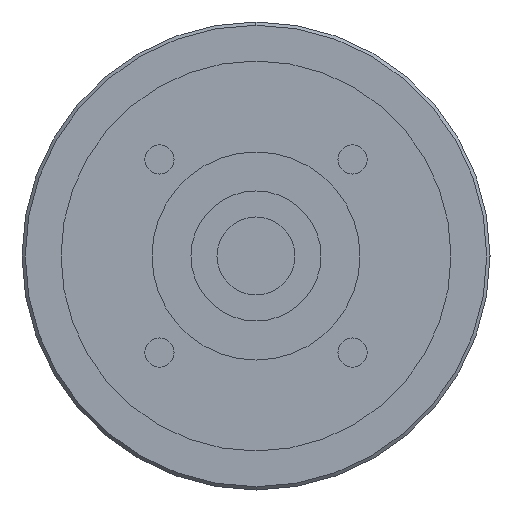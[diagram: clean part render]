
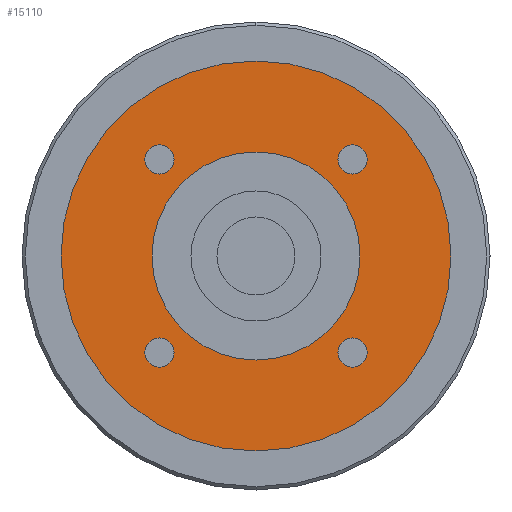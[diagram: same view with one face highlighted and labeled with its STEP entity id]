
A CAD part, left-side view. The second image highlights one B-rep face of the part: STEP entity #15110.
In plain terms, the highlighted planar face has unit normal (-1, 0, 0) as drawn and (0, 0, -1) by its records, which use the part's own axes.
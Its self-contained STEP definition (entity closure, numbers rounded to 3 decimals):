
#11930=CARTESIAN_POINT('',(-12.599,-14.849,-91.));
#11940=VERTEX_POINT('',#11930);
#12120=CARTESIAN_POINT('',(-17.099,-14.849,-91.));
#12130=VERTEX_POINT('',#12120);
#12160=CARTESIAN_POINT('',(-14.849,-14.849,-91.));
#12170=DIRECTION('',(0.,0.,-1.));
#12180=DIRECTION('',(0.,-1.,0.));
#12190=AXIS2_PLACEMENT_3D('',#12160,#12170,#12180);
#12200=CIRCLE('',#12190,2.25);
#12210=CARTESIAN_POINT('',(-14.849,-17.099,-91.));
#12220=VERTEX_POINT('',#12210);
#12230=EDGE_CURVE('',#12220,#12130,#12200,.T.);
#12250=EDGE_CURVE('',#11940,#12220,#12200,.T.);
#12350=CARTESIAN_POINT('',(0.,0.,
-91.));
#12360=DIRECTION('',(0.,0.,1.));
#12370=DIRECTION('',(0.,-1.,0.));
#12380=AXIS2_PLACEMENT_3D('',#12350,#12360,#12370);
#12390=CIRCLE('',#12380,16.);
#12400=CARTESIAN_POINT('',(0.,-16.,-91.));
#12410=VERTEX_POINT('',#12400);
#12420=CARTESIAN_POINT('',(16.,0.,-91.));
#12430=VERTEX_POINT('',#12420);
#12440=EDGE_CURVE('',#12410,#12430,#12390,.T.);
#12670=CARTESIAN_POINT('',(-16.,0.,-91.));
#12680=VERTEX_POINT('',#12670);
#12710=EDGE_CURVE('',#12680,#12410,#12390,.T.);
#14040=CARTESIAN_POINT('',(30.,0.,-91.));
#14050=VERTEX_POINT('',#14040);
#14080=CARTESIAN_POINT('',(0.,0.,
-91.));
#14090=DIRECTION('',(0.,0.,1.));
#14100=DIRECTION('',(0.,-1.,0.));
#14110=AXIS2_PLACEMENT_3D('',#14080,#14090,#14100);
#14120=CIRCLE('',#14110,30.);
#14130=CARTESIAN_POINT('',(0.,-30.,-91.));
#14140=VERTEX_POINT('',#14130);
#14150=EDGE_CURVE('',#14140,#14050,#14120,.T.);
#14170=CARTESIAN_POINT('',(-30.,0.,-91.));
#14180=VERTEX_POINT('',#14170);
#14190=EDGE_CURVE('',#14180,#14140,#14120,.T.);
#14310=CARTESIAN_POINT('',(0.,0.,
-91.));
#14320=DIRECTION('',(0.,0.,1.));
#14330=DIRECTION('',(-1.,0.,0.));
#14340=AXIS2_PLACEMENT_3D('',#14310,#14320,#14330);
#14350=PLANE('',#14340);
#14360=CARTESIAN_POINT('',(14.849,-14.849,-91.));
#14370=DIRECTION('',(0.,0.,-1.));
#14380=DIRECTION('',(1.,0.,0.));
#14390=AXIS2_PLACEMENT_3D('',#14360,#14370,#14380);
#14400=CIRCLE('',#14390,2.25);
#14410=CARTESIAN_POINT('',(17.099,-14.849,-91.));
#14420=VERTEX_POINT('',#14410);
#14430=CARTESIAN_POINT('',(14.849,-17.099,-91.));
#14440=VERTEX_POINT('',#14430);
#14450=EDGE_CURVE('',#14420,#14440,#14400,.T.);
#14460=ORIENTED_EDGE('',*,*,#14450,.F.);
#14470=CARTESIAN_POINT('',(14.849,-12.599,-91.));
#14480=VERTEX_POINT('',#14470);
#14490=EDGE_CURVE('',#14440,#14480,#14400,.T.);
#14500=ORIENTED_EDGE('',*,*,#14490,.F.);
#14510=EDGE_CURVE('',#14480,#14420,#14400,.T.);
#14520=ORIENTED_EDGE('',*,*,#14510,.F.);
#14530=EDGE_LOOP('',(#14520,#14500,#14460));
#14540=FACE_BOUND('',#14530,.T.);
#14550=CARTESIAN_POINT('',(14.849,14.849,-91.));
#14560=DIRECTION('',(0.,0.,-1.));
#14570=DIRECTION('',(0.,1.,0.));
#14580=AXIS2_PLACEMENT_3D('',#14550,#14560,#14570);
#14590=CIRCLE('',#14580,2.25);
#14600=CARTESIAN_POINT('',(14.849,17.099,-91.));
#14610=VERTEX_POINT('',#14600);
#14620=CARTESIAN_POINT('',(17.099,14.849,-91.));
#14630=VERTEX_POINT('',#14620);
#14640=EDGE_CURVE('',#14610,#14630,#14590,.T.);
#14650=ORIENTED_EDGE('',*,*,#14640,.F.);
#14660=CARTESIAN_POINT('',(12.599,14.849,-91.));
#14670=VERTEX_POINT('',#14660);
#14680=EDGE_CURVE('',#14630,#14670,#14590,.T.);
#14690=ORIENTED_EDGE('',*,*,#14680,.F.);
#14700=EDGE_CURVE('',#14670,#14610,#14590,.T.);
#14710=ORIENTED_EDGE('',*,*,#14700,.F.);
#14720=EDGE_LOOP('',(#14710,#14690,#14650));
#14730=FACE_BOUND('',#14720,.T.);
#14740=CARTESIAN_POINT('',(-14.849,14.849,-91.));
#14750=DIRECTION('',(0.,0.,-1.));
#14760=DIRECTION('',(-1.,0.,0.));
#14770=AXIS2_PLACEMENT_3D('',#14740,#14750,#14760);
#14780=CIRCLE('',#14770,2.25);
#14790=CARTESIAN_POINT('',(-17.099,14.849,-91.));
#14800=VERTEX_POINT('',#14790);
#14810=CARTESIAN_POINT('',(-14.849,17.099,-91.));
#14820=VERTEX_POINT('',#14810);
#14830=EDGE_CURVE('',#14800,#14820,#14780,.T.);
#14840=ORIENTED_EDGE('',*,*,#14830,.F.);
#14850=CARTESIAN_POINT('',(-14.849,12.599,-91.));
#14860=VERTEX_POINT('',#14850);
#14870=EDGE_CURVE('',#14820,#14860,#14780,.T.);
#14880=ORIENTED_EDGE('',*,*,#14870,.F.);
#14890=EDGE_CURVE('',#14860,#14800,#14780,.T.);
#14900=ORIENTED_EDGE('',*,*,#14890,.F.);
#14910=EDGE_LOOP('',(#14900,#14880,#14840));
#14920=FACE_BOUND('',#14910,.T.);
#14930=ORIENTED_EDGE('',*,*,#12230,.F.);
#14940=EDGE_CURVE('',#12130,#11940,#12200,.T.);
#14950=ORIENTED_EDGE('',*,*,#14940,.F.);
#14960=ORIENTED_EDGE('',*,*,#12250,.F.);
#14970=EDGE_LOOP('',(#14960,#14950,#14930));
#14980=FACE_BOUND('',#14970,.T.);
#14990=ORIENTED_EDGE('',*,*,#14150,.F.);
#15000=EDGE_CURVE('',#14050,#14180,#14120,.T.);
#15010=ORIENTED_EDGE('',*,*,#15000,.F.);
#15020=ORIENTED_EDGE('',*,*,#14190,.F.);
#15030=EDGE_LOOP('',(#15020,#15010,#14990));
#15040=FACE_OUTER_BOUND('',#15030,.T.);
#15050=EDGE_CURVE('',#12430,#12680,#12390,.T.);
#15060=ORIENTED_EDGE('',*,*,#15050,.T.);
#15070=ORIENTED_EDGE('',*,*,#12440,.T.);
#15080=ORIENTED_EDGE('',*,*,#12710,.T.);
#15090=EDGE_LOOP('',(#15080,#15070,#15060));
#15100=FACE_BOUND('',#15090,.T.);
#15110=ADVANCED_FACE('',(#14540,#14730,#14920,#14980,#15040,#15100),
#14350,.F.);
